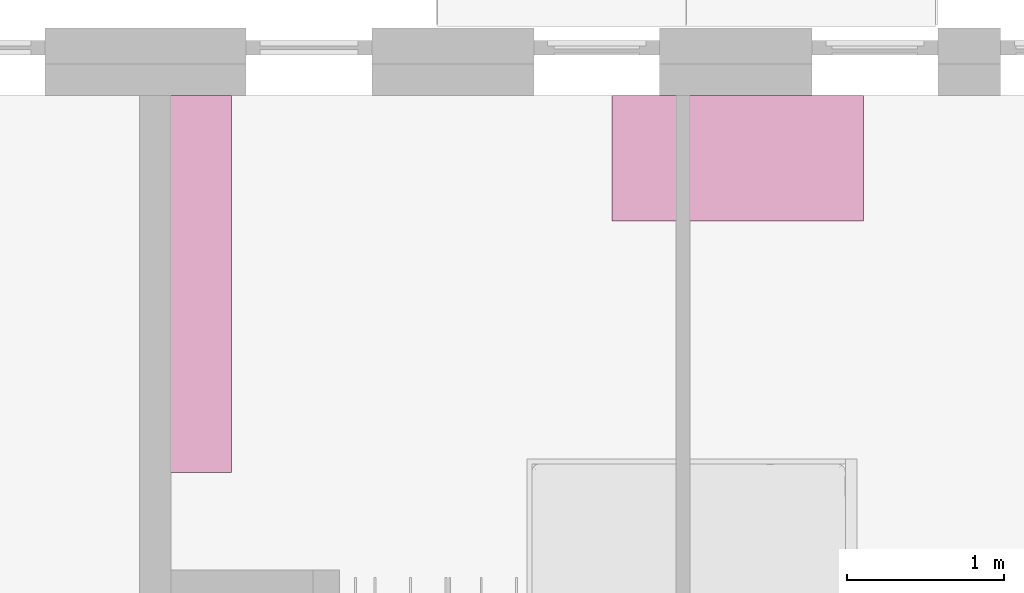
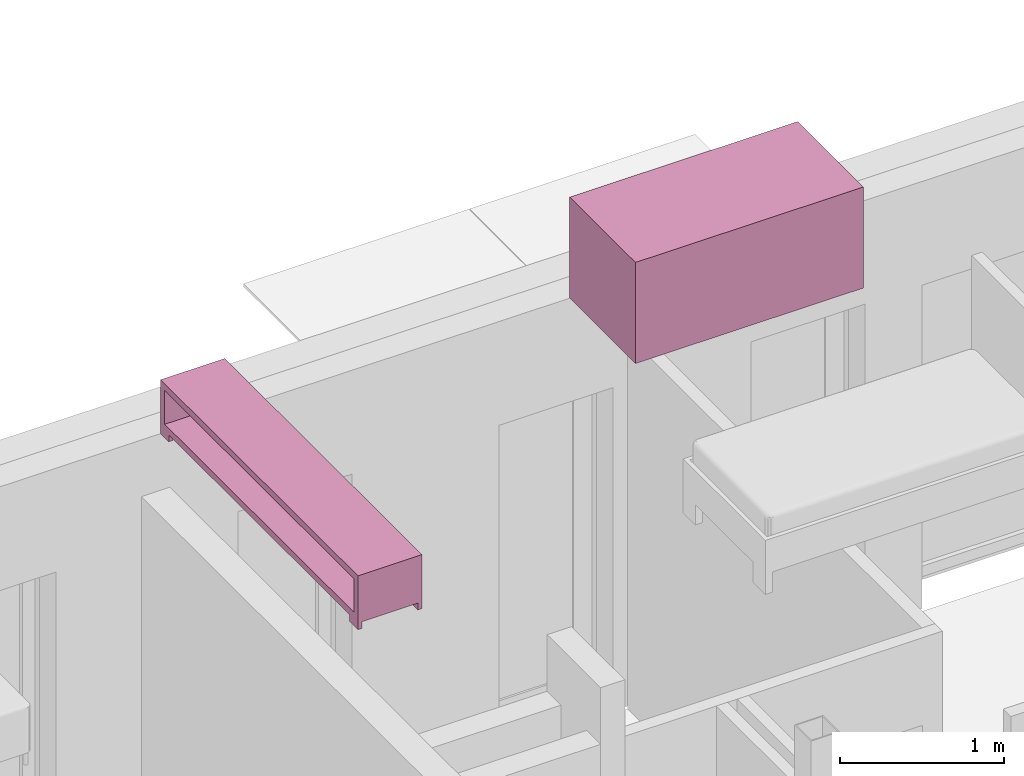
# One storey, part 31 of 68: 2 furnishings.
"""IFC2X3 building model written with IfcOpenShell, lengths in millimetres."""

from ifc_helpers import new_model, entity, si_unit, converted_unit, direction, frame, frame_2d, origin, origin_2d_with_axis, place, context, subcontext, project, spatial, polyline, rectangle, outline, extrude, source, transform, mapped, material, type_object, type_shapes, element, save


model = new_model("IFC2X3")

# Units and contexts
model_context = context("Model", 3, precision=0.01, world=origin(), true_north=direction((6.123233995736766e-17, 1.0)))
plan_context = context("Plan", 3, precision=0.01, world=origin(), true_north=direction((6.123233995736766e-17, 1.0)))
body_context = subcontext(model_context, "Body", "Model", "MODEL_VIEW")
ifc_project = project(units=[si_unit("LENGTHUNIT", "METRE", prefix="MILLI"), converted_unit("PLANEANGLEUNIT", "DEGREE", entity("IfcPlaneAngleMeasure", 0.017453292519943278), si_unit("PLANEANGLEUNIT", "RADIAN"), dimensions=[0, 0, 0, 0, 0, 0, 0]), si_unit("AREAUNIT", "SQUARE_METRE")], contexts=[model_context, plan_context])

# Site, building, storey, space
site_placement = place(None, origin())
site = spatial("IfcSite", under=ifc_project, at=site_placement, Name="Default", CompositionType="ELEMENT")
building_placement = place(site_placement, origin())
building = spatial("IfcBuilding", under=site, at=building_placement, CompositionType="ELEMENT")
storey_placement = place(building_placement, frame((0.0, 0.0, 6295.0)))
storey = spatial("IfcBuildingStorey", under=building, at=storey_placement, Name="3K", CompositionType="ELEMENT", Elevation=6294.999999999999)
space_placement = place(storey_placement, origin())
space = spatial("IfcSpace", under=storey, at=space_placement, Name="3-6.3", CompositionType="ELEMENT", InteriorOrExteriorSpace="INTERNAL")

# Furnishings
ifc_material = material(Name="<Unnamed>")
furniture_type_1 = type_object("IfcFurnitureType", Name="HR_Furniture_TV-stand_Generic_v2016-05-13:Default", AssemblyPlace="NOTDEFINED", material=ifc_material)
shared_shape_1 = source(origin(), body_context, "Body", "SweptSolid", [
    extrude(rectangle(XDim=99.99999999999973, YDim=29.999999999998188, at=origin_2d_with_axis()), frame((1150.0, 15.0, 0.0), z_axis=(0.0, 0.0, 1.0), x_axis=(-1.0, 0.0, 0.0)), (0.0, 0.0, 1.0), 49.99999999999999),
    extrude(rectangle(XDim=30.000000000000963, YDim=99.99999999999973, at=frame_2d((-3.375077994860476e-14, 0.0), x_axis=(1.0, 0.0))), frame((1150.0, 435.0, 0.0), z_axis=(0.0, 0.0, 1.0), x_axis=(0.0, 1.0, 0.0)), (0.0, 0.0, 1.0), 49.99999999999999),
    extrude(rectangle(XDim=30.000000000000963, YDim=99.99999999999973, at=frame_2d((-3.375077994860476e-14, 0.0), x_axis=(1.0, 0.0))), frame((-1150.0, 435.0, 0.0), z_axis=(0.0, 0.0, 1.0), x_axis=(0.0, 1.0, 0.0)), (0.0, 0.0, 1.0), 49.99999999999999),
    extrude(rectangle(XDim=99.99999999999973, YDim=29.999999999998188, at=origin_2d_with_axis()), frame((-1150.0, 15.0, 0.0), z_axis=(0.0, 0.0, 1.0), x_axis=(-1.0, 0.0, 0.0)), (0.0, 0.0, 1.0), 49.99999999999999),
    extrude(outline(polyline([(-175.0, -1200.0), (175.0, -1200.0), (175.0, 1200.0), (-175.0, 1200.0), (-175.0, -1200.0)]), holes=[polyline([(-125.0, -1150.0), (-125.0, 1150.0), (125.0, 1150.0), (125.0, -1150.0), (-125.0, -1150.0)])]), frame((0.0, 0.0, 225.0), z_axis=(0.0, 1.0, 0.0), x_axis=(0.0, 0.0, -1.0)), (0.0, 0.0, 1.0), 449.9999999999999),
])
type_shapes(furniture_type_1, [shared_shape_1])
furnishing_1_placement = place(space_placement, frame((3730.0, 14200.0, 3170.000076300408), z_axis=(0.0, 0.0, 1.0), x_axis=(0.0, 1.0, 0.0)))
element("IfcFurnishingElement", 1, at=furnishing_1_placement, inside=space, type_object=furniture_type_1, material=ifc_material, Name="HR_Furniture_TV-stand_Generic_v2016-05-13:Default", ObjectType="HR_Furniture_TV-stand_Generic_v2016-05-13:Default", context=body_context, shape_type="MappedRepresentation", body=[
    mapped(shared_shape_1, transform((0.0, 0.0, 0.0), scale=1.0)),
])
furniture_type_2 = type_object("IfcFurnitureType", Name="HR_Furniture_Office-desk_Placeholder_v2:Default", AssemblyPlace="NOTDEFINED", material=ifc_material)
shared_shape_2 = source(origin(), body_context, "Body", "SweptSolid", [
    extrude(rectangle(XDim=1600.0000000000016, YDim=800.0, at=frame_2d((-3.410605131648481e-13, -1.2789769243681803e-12), x_axis=(1.0, 0.0))), frame((-800.0, 400.0, 0.0), z_axis=(0.0, 0.0, 1.0), x_axis=(-1.0, 0.0, 0.0)), (0.0, 0.0, 1.0), 750.0),
])
type_shapes(furniture_type_2, [shared_shape_2])
furnishing_2_placement = place(space_placement, frame((6152.0, 15400.0, 3170.000076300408), z_axis=(0.0, 0.0, 1.0), x_axis=(-1.0, 0.0, 0.0)))
element("IfcFurnishingElement", 2, at=furnishing_2_placement, inside=space, type_object=furniture_type_2, material=ifc_material, Name="HR_Furniture_Office-desk_Placeholder_v2:Default", ObjectType="HR_Furniture_Office-desk_Placeholder_v2:Default", context=body_context, shape_type="MappedRepresentation", body=[
    mapped(shared_shape_2, transform((0.0, 0.0, 0.0), scale=1.0)),
])

save(model, "model.ifc")
